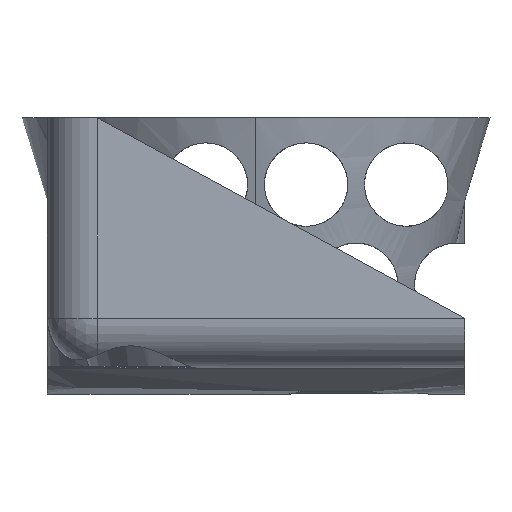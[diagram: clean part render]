
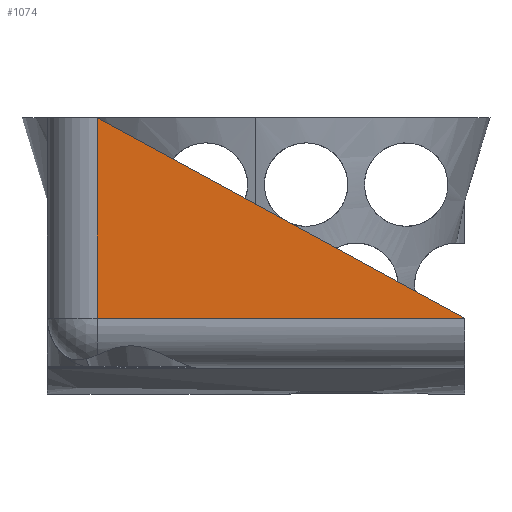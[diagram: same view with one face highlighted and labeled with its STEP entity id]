
A CAD part, left-side view. The second image highlights one B-rep face of the part: STEP entity #1074.
In plain terms, the highlighted planar face has unit normal (1, 0, 0).
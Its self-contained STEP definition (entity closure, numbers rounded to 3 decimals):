
#154 = EDGE_CURVE ( 'NONE', #3388, #3004, #2322, .T. ) ;
#297 = CARTESIAN_POINT ( 'NONE',  ( 0., 44., 30. ) ) ;
#443 = DIRECTION ( 'NONE',  ( 0., 1., 0. ) ) ;
#622 = CARTESIAN_POINT ( 'NONE',  ( 0., 44., 30. ) ) ;
#786 = VECTOR ( 'NONE', #3828, 1000. ) ;
#896 = CARTESIAN_POINT ( 'NONE',  ( 0., 0., 6. ) ) ;
#1039 = CARTESIAN_POINT ( 'NONE',  ( 0., 0., 0. ) ) ;
#1074 = ADVANCED_FACE ( 'NONE', ( #1628 ), #3785, .T. ) ;
#1162 = ORIENTED_EDGE ( 'NONE', *, *, #154, .F. ) ;
#1599 = EDGE_CURVE ( 'NONE', #3388, #3670, #2258, .T. ) ;
#1628 = FACE_OUTER_BOUND ( 'NONE', #3072, .T. ) ;
#1662 = VECTOR ( 'NONE', #443, 1000. ) ;
#1724 = VECTOR ( 'NONE', #3906, 1000. ) ;
#1901 = DIRECTION ( 'NONE',  ( 0., 0., -1. ) ) ;
#1988 = ORIENTED_EDGE ( 'NONE', *, *, #1599, .T. ) ;
#2102 = EDGE_CURVE ( 'NONE', #3670, #3004, #2161, .T. ) ;
#2161 = LINE ( 'NONE', #622, #1724 ) ;
#2226 = AXIS2_PLACEMENT_3D ( 'NONE', #1039, #3466, #1901 ) ;
#2258 = LINE ( 'NONE', #3502, #1662 ) ;
#2322 = LINE ( 'NONE', #3524, #786 ) ;
#2399 = ORIENTED_EDGE ( 'NONE', *, *, #2102, .T. ) ;
#2738 = CARTESIAN_POINT ( 'NONE',  ( 0., 44., 6. ) ) ;
#3004 = VERTEX_POINT ( 'NONE', #297 ) ;
#3072 = EDGE_LOOP ( 'NONE', ( #1162, #1988, #2399 ) ) ;
#3388 = VERTEX_POINT ( 'NONE', #896 ) ;
#3466 = DIRECTION ( 'NONE',  ( 1., 0., 0. ) ) ;
#3502 = CARTESIAN_POINT ( 'NONE',  ( 0., 0., 6. ) ) ;
#3524 = CARTESIAN_POINT ( 'NONE',  ( 0., -2.522, 4.624 ) ) ;
#3670 = VERTEX_POINT ( 'NONE', #2738 ) ;
#3785 = PLANE ( 'NONE',  #2226 ) ;
#3828 = DIRECTION ( 'NONE',  ( 0., 0.878, 0.479 ) ) ;
#3906 = DIRECTION ( 'NONE',  ( 0., 0., 1. ) ) ;
